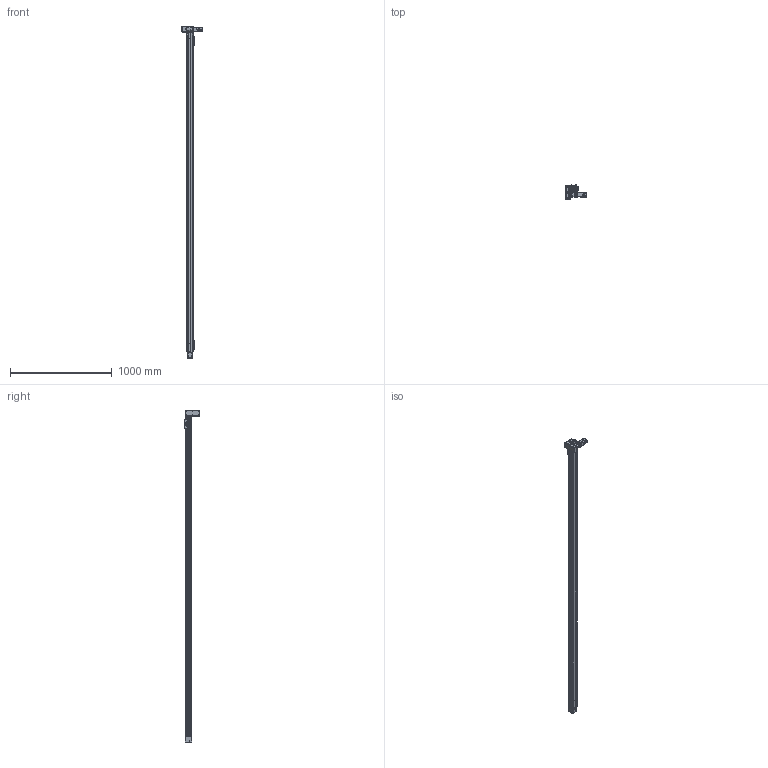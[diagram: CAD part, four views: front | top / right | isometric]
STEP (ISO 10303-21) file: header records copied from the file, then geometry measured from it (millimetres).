
FILE_DESCRIPTION(/* description */ (''),/* implementation_level */ '2;1');
FILE_NAME(/* name */ '\\192.168.0.160\disk1\HAN SHIN Master\B-설계부문\C-표준\B-2024년\BC02-표준도면\+로봇 개선표준도면\홈페이지 표준 도면\홈페이지 최종 작업 폴더\3D\HSB\HSB55\HSB55-DL1G-N-3000-R.stp',/* time_stamp */ '2025-06-19T20:13:18+09:00',/* author */ ('user'),/* organization */ (''),/* preprocessor_version */ 'ST-DEVELOPER v18.1',/* originating_system */ 'Autodesk Inventor 2022',/* authorisation */ '');
FILE_SCHEMA (('AUTOMOTIVE_DESIGN { 1 0 10303 214 3 1 1 }'));
Products named in the file (41): HSB55-DL1G-N-0500-R; HSB55 BASE; HSB55 TABLE; UPCOVER; HSB55 HOUSING (Connecting); HSB160 SHAFT-1; HSB55 FRONT HOUSIONG; HSB55 REAR SHAFT-1; HSB55 REAR SHAFT; HSB55 DOWN CLAMP; M4-25(렌치볼트); HSB55 HOUSING-R1; HSB55 TENSION PLATE; ISO 4032 - M4; HSB160 BEARING OVER; HSB55 UP CLAMP; HR45 SENSOR DOG; HR45 SENSOR RAIL; hsr_ftht_A-M6F_grease_nipple_joint; NIPPLE CAP(신규); SIDE COVER_대칭도; SIDE COVER; HR45 STOPPER; HSB55 END COVER; EC-6202ZZ; EC-6202ZZ Inner ring; EC-6202ZZ Outer ring; EC-6202ZZ St; EC-6202ZZ Ball; EC-6202ZZ B1; HSB55 ACRYL COVER-R1; HSB55 ACRYL COVER; EE_SX674A; PGX44-H-1_3; hg-kr13_; MOTOR PLATE-100W(MITSUBISHI); HR65-BELT COVER-COVER; HR65-BELT COVER-COVER3; HSB55 D MOTOR PLATE; HSB55 D BELT COVER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
Assembly tree (64 placements, depth 3):
  HSB55-DL1G-N-0500-R
    HSB55 BASE
    HSB55 TABLE
    UPCOVER
    HSB55 FRONT HOUSIONG  x2
    HSB55 HOUSING (Connecting)
    HSB160 SHAFT-1
    HSB55 REAR SHAFT-1
    #133144  x2
    HSB55 REAR SHAFT
    HSB55 DOWN CLAMP  x2
    HSB55 UP CLAMP  x2
    M4-25(렌치볼트)
    ISO 4032 - M4  x2
    HSB55 HOUSING-R1
    HSB55 TENSION PLATE  x2
    HSB160 BEARING OVER
    HR45 SENSOR DOG
    HR45 SENSOR RAIL  x2
    EE_SX674A  x3
    hsr_ftht_A-M6F_grease_nipple_joint
    NIPPLE CAP(신규)
    SIDE COVER_대칭도
    SIDE COVER
    HR45 STOPPER  x2
    HSB55 END COVER
    EC-6202ZZ  x2
      EC-6202ZZ Inner ring
      EC-6202ZZ Outer ring
      EC-6202ZZ B1
      EC-6202ZZ St
      EC-6202ZZ Ball
    HSB55 ACRYL COVER  x4
    HSB55 ACRYL COVER-R1
    PGX44-H-1_3
    hg-kr13_
    MOTOR PLATE-100W(MITSUBISHI)
    HR65-BELT COVER-COVER
    HR65-BELT COVER-COVER3
    HSB55 D MOTOR PLATE
    HSB55 D BELT COVER
    HR65-BELT COVER-COVER2  x2
Bounding box: 201.4 x 142.7 x 3270 mm (x, y, z)
Volume: 5009478.8 mm3; surface area: 2268148.5 mm2
Topology: 90 solids, 90 shells, 5269 faces, 14479 edges, 9475 vertices
Faces by surface type: plane 3640, cylinder 1261, cone 289, torus 35, sphere 22, bspline 22
Full cylindrical faces by diameter (mm): 1 x2, 2 x3, 2.013 x4, 2.459 x102, 2.5 x5, 3 x3, 3.242 x78, 3.3 x9, 3.4 x22, 3.5 x75, 4 x11, 4.134 x22, 4.2 x4, 4.5 x45, 4.917 x2, 5 x8, 5.5 x1, 5.6 x3, 5.9 x2, 6 x46, 6.5 x4, 7 x5, 7.5 x4, 8 x19, 8.2 x1, 9 x2, 9.5 x2, 10 x1, 11.5 x2, 12 x6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
Entity records: 133098 total; most frequent: CARTESIAN_POINT 26985, ORIENTED_EDGE 21804, DIRECTION 21419, EDGE_CURVE 10902, LINE 7671, VECTOR 7671, VERTEX_POINT 7175, AXIS2_PLACEMENT_3D 6874
